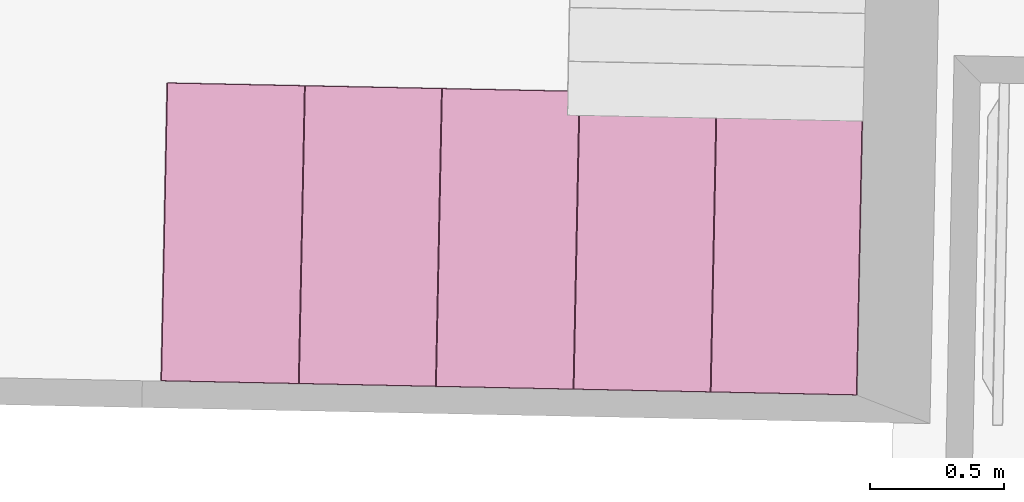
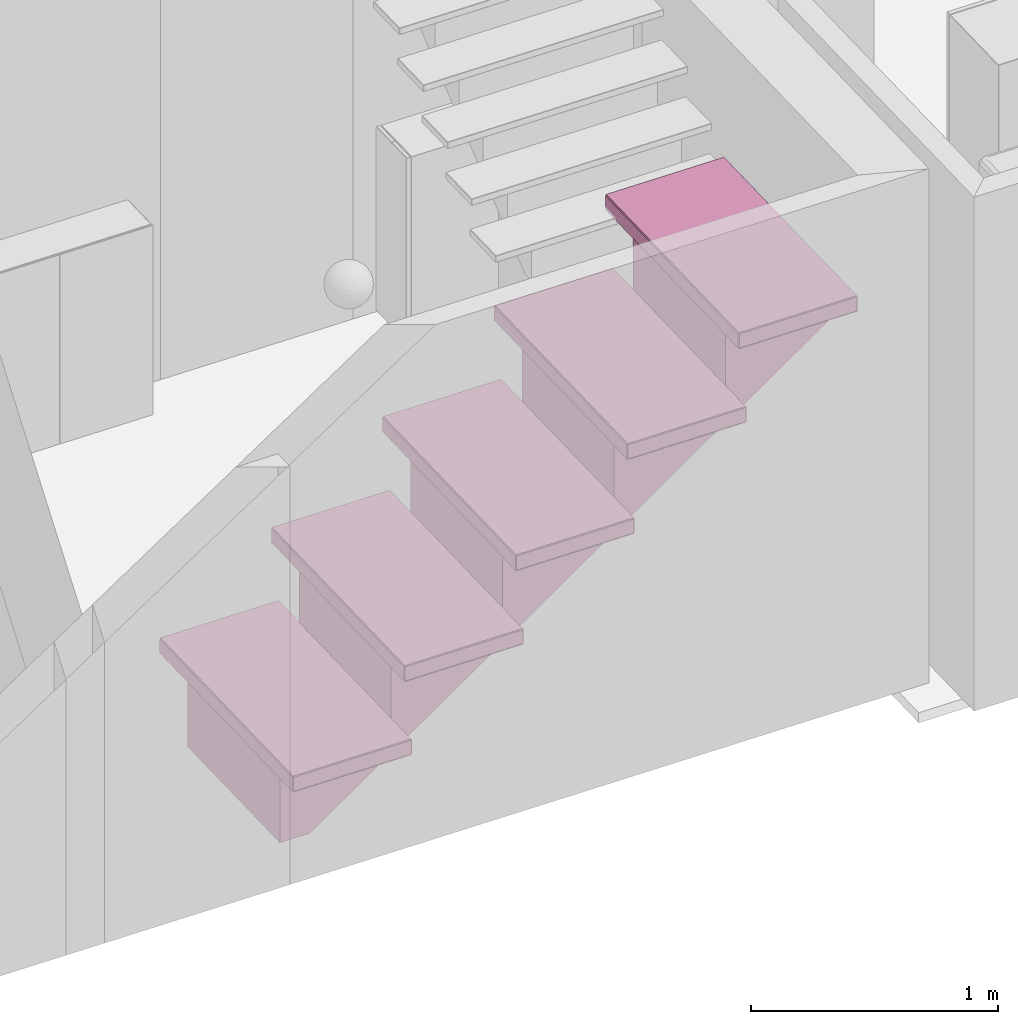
# One storey, part 3 of 8: 1 furnishing.
"""IFC2X3 building model written with IfcOpenShell, lengths in metres."""

from ifc_helpers import new_model, si_unit, frame, origin_with_axes, place, context, project, spatial, faceted_brep, type_object, element, save


model = new_model("IFC2X3")

# Units and contexts
model_context = context("Model", 3, precision=1e-05, world=origin_with_axes())
ifc_project = project(units=[si_unit("AREAUNIT", "SQUARE_METRE"), si_unit("LENGTHUNIT", "METRE")], contexts=[model_context])

# Site, building, storey, space
site_placement = place(None, origin_with_axes())
site = spatial("IfcSite", under=ifc_project, at=site_placement, Name="Site", CompositionType="ELEMENT")
building_placement = place(site_placement, origin_with_axes())
building = spatial("IfcBuilding", under=site, at=building_placement, Name="Building", CompositionType="ELEMENT")
storey_placement = place(building_placement, frame((0.0, 0.0, 2.8867046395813), z_axis=(0.0, 0.0, 1.0), x_axis=(1.0, 0.0, 0.0)))
storey = spatial("IfcBuildingStorey", under=building, at=storey_placement, Name="Story 1", CompositionType="ELEMENT", Elevation=2.8867045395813)
space_placement = place(storey_placement, frame((-5.69888454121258, -2.58056097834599, 0.0), z_axis=(0.0, 0.0, 1.0), x_axis=(1.0, 0.0, 0.0)))
space = spatial("IfcSpace", under=storey, at=space_placement, Name="009", CompositionType="ELEMENT", InteriorOrExteriorSpace="INTERNAL")

# Furnishing
furniture_type = type_object("IfcFurnitureType", Name="9e3f99af-1cf1-44c9-84f8-2562cf95ac9b")
furnishing_placement = place(space_placement, frame((2.24800496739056, -1.30748051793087, 0.970515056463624), z_axis=(0.0, 0.0, 0.999999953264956), x_axis=(-0.999792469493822, 0.0203700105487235, 0.0)))
element("IfcFurnishingElement", 1, at=furnishing_placement, inside=space, type_object=furniture_type, Name="STAIRS", ObjectType="STAIRS", context=model_context, shape_type="Brep", body=[
    faceted_brep([(1.3034, 0.5566, -0.5276), (1.3034, -0.5566, -0.5276), (1.3034, 0.5566, -0.5963), (1.3034, -0.5566, -0.5963), (1.3034, 0.5566, -0.5963), (1.3034, -0.5566, -0.5276), (1.2997, -0.5586, -0.5276), (0.7564, -0.5586, -0.5276), (1.2997, -0.5586, -0.5963), (0.7564, -0.5586, -0.5963), (1.2997, -0.5586, -0.5963), (0.7564, -0.5586, -0.5276), (0.7527, -0.5566, -0.5276), (0.7527, 0.5566, -0.5276), (0.7527, -0.5566, -0.5963), (0.7527, 0.5566, -0.5963), (0.7527, -0.5566, -0.5963), (0.7527, 0.5566, -0.5276), (0.7564, 0.5586, -0.5276), (1.2997, 0.5586, -0.5276), (0.7564, 0.5586, -0.5963), (1.2997, 0.5586, -0.5963), (0.7564, 0.5586, -0.5963), (1.2997, 0.5586, -0.5276), (1.2997, -0.5566, -0.6016), (0.7564, -0.5566, -0.6016), (1.2997, 0.5566, -0.6016), (0.7564, 0.5566, -0.6016), (1.2997, 0.5566, -0.6016), (0.7564, -0.5566, -0.6016), (1.2997, -0.5566, -0.5223), (1.2997, 0.5566, -0.5223), (0.7564, -0.5566, -0.5223), (0.7564, 0.5566, -0.5223), (0.7564, -0.5566, -0.5223), (1.2997, 0.5566, -0.5223), (1.2997, 0.5586, -0.5963), (1.3034, 0.5566, -0.5963), (1.2997, 0.5566, -0.6016), (1.2997, -0.5586, -0.5963), (1.2997, -0.5566, -0.6016), (1.3034, -0.5566, -0.5963), (0.7527, -0.5566, -0.5963), (0.7564, -0.5566, -0.6016), (0.7564, -0.5586, -0.5963), (0.7527, 0.5566, -0.5963), (0.7564, 0.5586, -0.5963), (0.7564, 0.5566, -0.6016), (1.2997, 0.5566, -0.5223), (1.3034, 0.5566, -0.5276), (1.2997, 0.5586, -0.5276), (1.2997, -0.5566, -0.5223), (1.2997, -0.5586, -0.5276), (1.3034, -0.5566, -0.5276), (0.7564, -0.5566, -0.5223), (0.7527, -0.5566, -0.5276), (0.7564, -0.5586, -0.5276), (0.7564, 0.5566, -0.5223), (0.7564, 0.5586, -0.5276), (0.7527, 0.5566, -0.5276), (1.2997, 0.5566, -0.6016), (1.3034, 0.5566, -0.5963), (1.2997, -0.5566, -0.6016), (1.3034, -0.5566, -0.5963), (1.2997, -0.5566, -0.6016), (1.3034, 0.5566, -0.5963), (1.2997, -0.5586, -0.5963), (1.3034, -0.5566, -0.5963), (1.2997, -0.5586, -0.5276), (1.3034, -0.5566, -0.5276), (1.2997, -0.5586, -0.5276), (1.3034, -0.5566, -0.5963), (1.2997, -0.5566, -0.5223), (1.3034, -0.5566, -0.5276), (1.2997, 0.5566, -0.5223), (1.3034, 0.5566, -0.5276), (1.2997, 0.5566, -0.5223), (1.3034, -0.5566, -0.5276), (1.2997, 0.5586, -0.5276), (1.3034, 0.5566, -0.5276), (1.2997, 0.5586, -0.5963), (1.3034, 0.5566, -0.5963), (1.2997, 0.5586, -0.5963), (1.3034, 0.5566, -0.5276), (1.2997, -0.5566, -0.6016), (1.2997, -0.5586, -0.5963), (0.7564, -0.5566, -0.6016), (0.7564, -0.5586, -0.5963), (0.7564, -0.5566, -0.6016), (1.2997, -0.5586, -0.5963), (0.7527, -0.5566, -0.5963), (0.7564, -0.5586, -0.5963), (0.7527, -0.5566, -0.5276), (0.7564, -0.5586, -0.5276), (0.7527, -0.5566, -0.5276), (0.7564, -0.5586, -0.5963), (0.7564, -0.5566, -0.5223), (0.7564, -0.5586, -0.5276), (1.2997, -0.5566, -0.5223), (1.2997, -0.5586, -0.5276), (1.2997, -0.5566, -0.5223), (0.7564, -0.5586, -0.5276), (0.7564, -0.5566, -0.6016), (0.7527, -0.5566, -0.5963), (0.7564, 0.5566, -0.6016), (0.7527, 0.5566, -0.5963), (0.7564, 0.5566, -0.6016), (0.7527, -0.5566, -0.5963), (0.7564, 0.5586, -0.5963), (0.7527, 0.5566, -0.5963), (0.7564, 0.5586, -0.5276), (0.7527, 0.5566, -0.5276), (0.7564, 0.5586, -0.5276), (0.7527, 0.5566, -0.5963), (0.7564, 0.5566, -0.5223), (0.7527, 0.5566, -0.5276), (0.7564, -0.5566, -0.5223), (0.7527, -0.5566, -0.5276), (0.7564, -0.5566, -0.5223), (0.7527, 0.5566, -0.5276), (0.7564, 0.5566, -0.6016), (0.7564, 0.5586, -0.5963), (1.2997, 0.5566, -0.6016), (1.2997, 0.5586, -0.5963), (1.2997, 0.5566, -0.6016), (0.7564, 0.5586, -0.5963), (1.2997, 0.5566, -0.5223), (1.2997, 0.5586, -0.5276), (0.7564, 0.5566, -0.5223), (0.7564, 0.5586, -0.5276), (0.7564, 0.5566, -0.5223), (1.2997, 0.5586, -0.5276), (0.788, 0.5566, -0.1566), (0.788, -0.5566, -0.1566), (0.788, 0.5566, -0.2253), (0.788, -0.5566, -0.2253), (0.788, 0.5566, -0.2253), (0.788, -0.5566, -0.1566), (0.7844, -0.5586, -0.1566), (0.241, -0.5586, -0.1566), (0.7844, -0.5586, -0.2253), (0.241, -0.5586, -0.2253), (0.7844, -0.5586, -0.2253), (0.241, -0.5586, -0.1566), (0.2374, -0.5566, -0.1566), (0.2374, 0.5566, -0.1566), (0.2374, -0.5566, -0.2253), (0.2374, 0.5566, -0.2253), (0.2374, -0.5566, -0.2253), (0.2374, 0.5566, -0.1566), (0.241, 0.5586, -0.1566), (0.7844, 0.5586, -0.1566), (0.241, 0.5586, -0.2253), (0.7844, 0.5586, -0.2253), (0.241, 0.5586, -0.2253), (0.7844, 0.5586, -0.1566), (0.7844, -0.5566, -0.2305), (0.241, -0.5566, -0.2305), (0.7844, 0.5566, -0.2305), (0.241, 0.5566, -0.2305), (0.7844, 0.5566, -0.2305), (0.241, -0.5566, -0.2305), (0.7844, -0.5566, -0.1513), (0.7844, 0.5566, -0.1513), (0.241, -0.5566, -0.1513), (0.241, 0.5566, -0.1513), (0.241, -0.5566, -0.1513), (0.7844, 0.5566, -0.1513), (0.7844, 0.5586, -0.2253), (0.788, 0.5566, -0.2253), (0.7844, 0.5566, -0.2305), (0.7844, -0.5586, -0.2253), (0.7844, -0.5566, -0.2305), (0.788, -0.5566, -0.2253), (0.2374, -0.5566, -0.2253), (0.241, -0.5566, -0.2305), (0.241, -0.5586, -0.2253), (0.2374, 0.5566, -0.2253), (0.241, 0.5586, -0.2253), (0.241, 0.5566, -0.2305), (0.7844, 0.5566, -0.1513), (0.788, 0.5566, -0.1566), (0.7844, 0.5586, -0.1566), (0.7844, -0.5566, -0.1513), (0.7844, -0.5586, -0.1566), (0.788, -0.5566, -0.1566), (0.241, -0.5566, -0.1513), (0.2374, -0.5566, -0.1566), (0.241, -0.5586, -0.1566), (0.241, 0.5566, -0.1513), (0.241, 0.5586, -0.1566), (0.2374, 0.5566, -0.1566), (0.7844, 0.5566, -0.2305), (0.788, 0.5566, -0.2253), (0.7844, -0.5566, -0.2305), (0.788, -0.5566, -0.2253), (0.7844, -0.5566, -0.2305), (0.788, 0.5566, -0.2253), (0.7844, -0.5586, -0.2253), (0.788, -0.5566, -0.2253), (0.7844, -0.5586, -0.1566), (0.788, -0.5566, -0.1566), (0.7844, -0.5586, -0.1566), (0.788, -0.5566, -0.2253), (0.7844, -0.5566, -0.1513), (0.788, -0.5566, -0.1566), (0.7844, 0.5566, -0.1513), (0.788, 0.5566, -0.1566), (0.7844, 0.5566, -0.1513), (0.788, -0.5566, -0.1566), (0.7844, 0.5586, -0.1566), (0.788, 0.5566, -0.1566), (0.7844, 0.5586, -0.2253), (0.788, 0.5566, -0.2253), (0.7844, 0.5586, -0.2253), (0.788, 0.5566, -0.1566), (0.7844, -0.5566, -0.2305), (0.7844, -0.5586, -0.2253), (0.241, -0.5566, -0.2305), (0.241, -0.5586, -0.2253), (0.241, -0.5566, -0.2305), (0.7844, -0.5586, -0.2253), (0.2374, -0.5566, -0.2253), (0.241, -0.5586, -0.2253), (0.2374, -0.5566, -0.1566), (0.241, -0.5586, -0.1566), (0.2374, -0.5566, -0.1566), (0.241, -0.5586, -0.2253), (0.241, -0.5566, -0.1513), (0.241, -0.5586, -0.1566), (0.7844, -0.5566, -0.1513), (0.7844, -0.5586, -0.1566), (0.7844, -0.5566, -0.1513), (0.241, -0.5586, -0.1566), (0.241, -0.5566, -0.2305), (0.2374, -0.5566, -0.2253), (0.241, 0.5566, -0.2305), (0.2374, 0.5566, -0.2253), (0.241, 0.5566, -0.2305), (0.2374, -0.5566, -0.2253), (0.241, 0.5586, -0.2253), (0.2374, 0.5566, -0.2253), (0.241, 0.5586, -0.1566), (0.2374, 0.5566, -0.1566), (0.241, 0.5586, -0.1566), (0.2374, 0.5566, -0.2253), (0.241, 0.5566, -0.1513), (0.2374, 0.5566, -0.1566), (0.241, -0.5566, -0.1513), (0.2374, -0.5566, -0.1566), (0.241, -0.5566, -0.1513), (0.2374, 0.5566, -0.1566), (0.241, 0.5566, -0.2305), (0.241, 0.5586, -0.2253), (0.7844, 0.5566, -0.2305), (0.7844, 0.5586, -0.2253), (0.7844, 0.5566, -0.2305), (0.241, 0.5586, -0.2253), (0.7844, 0.5566, -0.1513), (0.7844, 0.5586, -0.1566), (0.241, 0.5566, -0.1513), (0.241, 0.5586, -0.1566), (0.241, 0.5566, -0.1513), (0.7844, 0.5586, -0.1566), (0.2752, 0.5566, 0.2169), (0.2752, -0.5566, 0.2169), (0.2752, 0.5566, 0.1482), (0.2752, -0.5566, 0.1482), (0.2752, 0.5566, 0.1482), (0.2752, -0.5566, 0.2169), (0.2716, -0.5586, 0.2169), (-0.2718, -0.5586, 0.2169), (0.2716, -0.5586, 0.1482), (-0.2718, -0.5586, 0.1482), (0.2716, -0.5586, 0.1482), (-0.2718, -0.5586, 0.2169), (-0.2754, -0.5566, 0.2169), (-0.2754, 0.5566, 0.2169), (-0.2754, -0.5566, 0.1482), (-0.2754, 0.5566, 0.1482), (-0.2754, -0.5566, 0.1482), (-0.2754, 0.5566, 0.2169), (-0.2718, 0.5586, 0.2169), (0.2716, 0.5586, 0.2169), (-0.2718, 0.5586, 0.1482), (0.2716, 0.5586, 0.1482), (-0.2718, 0.5586, 0.1482), (0.2716, 0.5586, 0.2169), (0.2716, -0.5566, 0.143), (-0.2718, -0.5566, 0.143), (0.2716, 0.5566, 0.143), (-0.2718, 0.5566, 0.143), (0.2716, 0.5566, 0.143), (-0.2718, -0.5566, 0.143), (0.2716, -0.5566, 0.2222), (0.2716, 0.5566, 0.2222), (-0.2718, -0.5566, 0.2222), (-0.2718, 0.5566, 0.2222), (-0.2718, -0.5566, 0.2222), (0.2716, 0.5566, 0.2222), (0.2716, 0.5586, 0.1482), (0.2752, 0.5566, 0.1482), (0.2716, 0.5566, 0.143), (0.2716, -0.5586, 0.1482), (0.2716, -0.5566, 0.143), (0.2752, -0.5566, 0.1482), (-0.2754, -0.5566, 0.1482), (-0.2718, -0.5566, 0.143), (-0.2718, -0.5586, 0.1482), (-0.2754, 0.5566, 0.1482), (-0.2718, 0.5586, 0.1482), (-0.2718, 0.5566, 0.143), (0.2716, 0.5566, 0.2222), (0.2752, 0.5566, 0.2169), (0.2716, 0.5586, 0.2169), (0.2716, -0.5566, 0.2222), (0.2716, -0.5586, 0.2169), (0.2752, -0.5566, 0.2169), (-0.2718, -0.5566, 0.2222), (-0.2754, -0.5566, 0.2169), (-0.2718, -0.5586, 0.2169), (-0.2718, 0.5566, 0.2222), (-0.2718, 0.5586, 0.2169), (-0.2754, 0.5566, 0.2169), (0.2716, 0.5566, 0.143), (0.2752, 0.5566, 0.1482), (0.2716, -0.5566, 0.143), (0.2752, -0.5566, 0.1482), (0.2716, -0.5566, 0.143), (0.2752, 0.5566, 0.1482), (0.2716, -0.5586, 0.1482), (0.2752, -0.5566, 0.1482), (0.2716, -0.5586, 0.2169), (0.2752, -0.5566, 0.2169), (0.2716, -0.5586, 0.2169), (0.2752, -0.5566, 0.1482), (0.2716, -0.5566, 0.2222), (0.2752, -0.5566, 0.2169), (0.2716, 0.5566, 0.2222), (0.2752, 0.5566, 0.2169), (0.2716, 0.5566, 0.2222), (0.2752, -0.5566, 0.2169), (0.2716, 0.5586, 0.2169), (0.2752, 0.5566, 0.2169), (0.2716, 0.5586, 0.1482), (0.2752, 0.5566, 0.1482), (0.2716, 0.5586, 0.1482), (0.2752, 0.5566, 0.2169), (0.2716, -0.5566, 0.143), (0.2716, -0.5586, 0.1482), (-0.2718, -0.5566, 0.143), (-0.2718, -0.5586, 0.1482), (-0.2718, -0.5566, 0.143), (0.2716, -0.5586, 0.1482), (-0.2754, -0.5566, 0.1482), (-0.2718, -0.5586, 0.1482), (-0.2754, -0.5566, 0.2169), (-0.2718, -0.5586, 0.2169), (-0.2754, -0.5566, 0.2169), (-0.2718, -0.5586, 0.1482), (-0.2718, -0.5566, 0.2222), (-0.2718, -0.5586, 0.2169), (0.2716, -0.5566, 0.2222), (0.2716, -0.5586, 0.2169), (0.2716, -0.5566, 0.2222), (-0.2718, -0.5586, 0.2169), (-0.2718, -0.5566, 0.143), (-0.2754, -0.5566, 0.1482), (-0.2718, 0.5566, 0.143), (-0.2754, 0.5566, 0.1482), (-0.2718, 0.5566, 0.143), (-0.2754, -0.5566, 0.1482), (-0.2718, 0.5586, 0.1482), (-0.2754, 0.5566, 0.1482), (-0.2718, 0.5586, 0.2169), (-0.2754, 0.5566, 0.2169), (-0.2718, 0.5586, 0.2169), (-0.2754, 0.5566, 0.1482), (-0.2718, 0.5566, 0.2222), (-0.2754, 0.5566, 0.2169), (-0.2718, -0.5566, 0.2222), (-0.2754, -0.5566, 0.2169), (-0.2718, -0.5566, 0.2222), (-0.2754, 0.5566, 0.2169), (-0.2718, 0.5566, 0.143), (-0.2718, 0.5586, 0.1482), (0.2716, 0.5566, 0.143), (0.2716, 0.5586, 0.1482), (0.2716, 0.5566, 0.143), (-0.2718, 0.5586, 0.1482), (0.2716, 0.5566, 0.2222), (0.2716, 0.5586, 0.2169), (-0.2718, 0.5566, 0.2222), (-0.2718, 0.5586, 0.2169), (-0.2718, 0.5566, 0.2222), (0.2716, 0.5586, 0.2169), (-0.2397, 0.5566, 0.5917), (-0.2397, -0.5566, 0.5917), (-0.2397, 0.5566, 0.523), (-0.2397, -0.5566, 0.523), (-0.2397, 0.5566, 0.523), (-0.2397, -0.5566, 0.5917), (-0.2434, -0.5586, 0.5917), (-0.7867, -0.5586, 0.5917), (-0.2434, -0.5586, 0.523), (-0.7867, -0.5586, 0.523), (-0.2434, -0.5586, 0.523), (-0.7867, -0.5586, 0.5917), (-0.7904, -0.5566, 0.5917), (-0.7904, 0.5566, 0.5917), (-0.7904, -0.5566, 0.523), (-0.7904, 0.5566, 0.523), (-0.7904, -0.5566, 0.523), (-0.7904, 0.5566, 0.5917), (-0.7867, 0.5586, 0.5917), (-0.2434, 0.5586, 0.5917), (-0.7867, 0.5586, 0.523), (-0.2434, 0.5586, 0.523), (-0.7867, 0.5586, 0.523), (-0.2434, 0.5586, 0.5917), (-0.2434, -0.5566, 0.5177), (-0.7867, -0.5566, 0.5177), (-0.2434, 0.5566, 0.5177), (-0.7867, 0.5566, 0.5177), (-0.2434, 0.5566, 0.5177), (-0.7867, -0.5566, 0.5177), (-0.2434, -0.5566, 0.5969), (-0.2434, 0.5566, 0.5969), (-0.7867, -0.5566, 0.5969), (-0.7867, 0.5566, 0.5969), (-0.7867, -0.5566, 0.5969), (-0.2434, 0.5566, 0.5969), (-0.2434, 0.5586, 0.523), (-0.2397, 0.5566, 0.523), (-0.2434, 0.5566, 0.5177), (-0.2434, -0.5586, 0.523), (-0.2434, -0.5566, 0.5177), (-0.2397, -0.5566, 0.523), (-0.7904, -0.5566, 0.523), (-0.7867, -0.5566, 0.5177), (-0.7867, -0.5586, 0.523), (-0.7904, 0.5566, 0.523), (-0.7867, 0.5586, 0.523), (-0.7867, 0.5566, 0.5177), (-0.2434, 0.5566, 0.5969), (-0.2397, 0.5566, 0.5917), (-0.2434, 0.5586, 0.5917), (-0.2434, -0.5566, 0.5969), (-0.2434, -0.5586, 0.5917), (-0.2397, -0.5566, 0.5917), (-0.7867, -0.5566, 0.5969), (-0.7904, -0.5566, 0.5917), (-0.7867, -0.5586, 0.5917), (-0.7867, 0.5566, 0.5969), (-0.7867, 0.5586, 0.5917), (-0.7904, 0.5566, 0.5917), (-0.2434, 0.5566, 0.5177), (-0.2397, 0.5566, 0.523), (-0.2434, -0.5566, 0.5177), (-0.2397, -0.5566, 0.523), (-0.2434, -0.5566, 0.5177), (-0.2397, 0.5566, 0.523), (-0.2434, -0.5586, 0.523), (-0.2397, -0.5566, 0.523), (-0.2434, -0.5586, 0.5917), (-0.2397, -0.5566, 0.5917), (-0.2434, -0.5586, 0.5917), (-0.2397, -0.5566, 0.523), (-0.2434, -0.5566, 0.5969), (-0.2397, -0.5566, 0.5917), (-0.2434, 0.5566, 0.5969), (-0.2397, 0.5566, 0.5917), (-0.2434, 0.5566, 0.5969), (-0.2397, -0.5566, 0.5917), (-0.2434, 0.5586, 0.5917), (-0.2397, 0.5566, 0.5917), (-0.2434, 0.5586, 0.523), (-0.2397, 0.5566, 0.523), (-0.2434, 0.5586, 0.523), (-0.2397, 0.5566, 0.5917), (-0.2434, -0.5566, 0.5177), (-0.2434, -0.5586, 0.523), (-0.7867, -0.5566, 0.5177), (-0.7867, -0.5586, 0.523), (-0.7867, -0.5566, 0.5177), (-0.2434, -0.5586, 0.523), (-0.7904, -0.5566, 0.523), (-0.7867, -0.5586, 0.523), (-0.7904, -0.5566, 0.5917), (-0.7867, -0.5586, 0.5917), (-0.7904, -0.5566, 0.5917), (-0.7867, -0.5586, 0.523), (-0.7867, -0.5566, 0.5969), (-0.7867, -0.5586, 0.5917), (-0.2434, -0.5566, 0.5969), (-0.2434, -0.5586, 0.5917), (-0.2434, -0.5566, 0.5969), (-0.7867, -0.5586, 0.5917), (-0.7867, -0.5566, 0.5177), (-0.7904, -0.5566, 0.523), (-0.7867, 0.5566, 0.5177), (-0.7904, 0.5566, 0.523), (-0.7867, 0.5566, 0.5177), (-0.7904, -0.5566, 0.523), (-0.7867, 0.5586, 0.523), (-0.7904, 0.5566, 0.523), (-0.7867, 0.5586, 0.5917), (-0.7904, 0.5566, 0.5917), (-0.7867, 0.5586, 0.5917), (-0.7904, 0.5566, 0.523), (-0.7867, 0.5566, 0.5969), (-0.7904, 0.5566, 0.5917), (-0.7867, -0.5566, 0.5969), (-0.7904, -0.5566, 0.5917), (-0.7867, -0.5566, 0.5969), (-0.7904, 0.5566, 0.5917), (-0.7867, 0.5566, 0.5177), (-0.7867, 0.5586, 0.523), (-0.2434, 0.5566, 0.5177), (-0.2434, 0.5586, 0.523), (-0.2434, 0.5566, 0.5177), (-0.7867, 0.5586, 0.523), (-0.2434, 0.5566, 0.5969), (-0.2434, 0.5586, 0.5917), (-0.7867, 0.5566, 0.5969), (-0.7867, 0.5586, 0.5917), (-0.7867, 0.5566, 0.5969), (-0.2434, 0.5586, 0.5917), (-0.7527, 0.5566, 0.9652), (-0.7527, -0.5566, 0.9652), (-0.7527, 0.5566, 0.8965), (-0.7527, -0.5566, 0.8965), (-0.7527, 0.5566, 0.8965), (-0.7527, -0.5566, 0.9652), (-0.7564, -0.5586, 0.9652), (-1.2997, -0.5586, 0.9652), (-0.7564, -0.5586, 0.8965), (-1.2997, -0.5586, 0.8965), (-0.7564, -0.5586, 0.8965), (-1.2997, -0.5586, 0.9652), (-1.3034, -0.5566, 0.9652), (-1.3034, 0.5566, 0.9652), (-1.3034, -0.5566, 0.8965), (-1.3034, 0.5566, 0.8965), (-1.3034, -0.5566, 0.8965), (-1.3034, 0.5566, 0.9652), (-1.2997, 0.5586, 0.9652), (-0.7564, 0.5586, 0.9652), (-1.2997, 0.5586, 0.8965), (-0.7564, 0.5586, 0.8965), (-1.2997, 0.5586, 0.8965), (-0.7564, 0.5586, 0.9652), (-0.7564, -0.5566, 0.8912), (-1.2997, -0.5566, 0.8912), (-0.7564, 0.5566, 0.8912), (-1.2997, 0.5566, 0.8912), (-0.7564, 0.5566, 0.8912), (-1.2997, -0.5566, 0.8912), (-0.7564, -0.5566, 0.9705), (-0.7564, 0.5566, 0.9705), (-1.2997, -0.5566, 0.9705), (-1.2997, 0.5566, 0.9705), (-1.2997, -0.5566, 0.9705), (-0.7564, 0.5566, 0.9705), (-0.7564, 0.5586, 0.8965), (-0.7527, 0.5566, 0.8965), (-0.7564, 0.5566, 0.8912), (-0.7564, -0.5586, 0.8965), (-0.7564, -0.5566, 0.8912), (-0.7527, -0.5566, 0.8965), (-1.3034, -0.5566, 0.8965), (-1.2997, -0.5566, 0.8912), (-1.2997, -0.5586, 0.8965), (-1.3034, 0.5566, 0.8965), (-1.2997, 0.5586, 0.8965), (-1.2997, 0.5566, 0.8912), (-0.7564, 0.5566, 0.9705), (-0.7527, 0.5566, 0.9652), (-0.7564, 0.5586, 0.9652), (-0.7564, -0.5566, 0.9705), (-0.7564, -0.5586, 0.9652), (-0.7527, -0.5566, 0.9652), (-1.2997, -0.5566, 0.9705), (-1.3034, -0.5566, 0.9652), (-1.2997, -0.5586, 0.9652), (-1.2997, 0.5566, 0.9705), (-1.2997, 0.5586, 0.9652), (-1.3034, 0.5566, 0.9652), (-0.7564, 0.5566, 0.8912), (-0.7527, 0.5566, 0.8965), (-0.7564, -0.5566, 0.8912), (-0.7527, -0.5566, 0.8965), (-0.7564, -0.5566, 0.8912), (-0.7527, 0.5566, 0.8965), (-0.7564, -0.5586, 0.8965), (-0.7527, -0.5566, 0.8965), (-0.7564, -0.5586, 0.9652), (-0.7527, -0.5566, 0.9652), (-0.7564, -0.5586, 0.9652), (-0.7527, -0.5566, 0.8965), (-0.7564, -0.5566, 0.9705), (-0.7527, -0.5566, 0.9652), (-0.7564, 0.5566, 0.9705), (-0.7527, 0.5566, 0.9652), (-0.7564, 0.5566, 0.9705), (-0.7527, -0.5566, 0.9652), (-0.7564, 0.5586, 0.9652), (-0.7527, 0.5566, 0.9652), (-0.7564, 0.5586, 0.8965), (-0.7527, 0.5566, 0.8965), (-0.7564, 0.5586, 0.8965), (-0.7527, 0.5566, 0.9652), (-0.7564, -0.5566, 0.8912), (-0.7564, -0.5586, 0.8965), (-1.2997, -0.5566, 0.8912), (-1.2997, -0.5586, 0.8965), (-1.2997, -0.5566, 0.8912), (-0.7564, -0.5586, 0.8965), (-1.3034, -0.5566, 0.8965), (-1.2997, -0.5586, 0.8965), (-1.3034, -0.5566, 0.9652), (-1.2997, -0.5586, 0.9652), (-1.3034, -0.5566, 0.9652), (-1.2997, -0.5586, 0.8965), (-1.2997, -0.5566, 0.9705), (-1.2997, -0.5586, 0.9652), (-0.7564, -0.5566, 0.9705), (-0.7564, -0.5586, 0.9652), (-0.7564, -0.5566, 0.9705), (-1.2997, -0.5586, 0.9652), (-1.2997, -0.5566, 0.8912), (-1.3034, -0.5566, 0.8965), (-1.2997, 0.5566, 0.8912), (-1.3034, 0.5566, 0.8965), (-1.2997, 0.5566, 0.8912), (-1.3034, -0.5566, 0.8965), (-1.2997, 0.5586, 0.8965), (-1.3034, 0.5566, 0.8965), (-1.2997, 0.5586, 0.9652), (-1.3034, 0.5566, 0.9652), (-1.2997, 0.5586, 0.9652), (-1.3034, 0.5566, 0.8965), (-1.2997, 0.5566, 0.9705), (-1.3034, 0.5566, 0.9652), (-1.2997, -0.5566, 0.9705), (-1.3034, -0.5566, 0.9652), (-1.2997, -0.5566, 0.9705), (-1.3034, 0.5566, 0.9652), (-1.2997, 0.5566, 0.8912), (-1.2997, 0.5586, 0.8965), (-0.7564, 0.5566, 0.8912), (-0.7564, 0.5586, 0.8965), (-0.7564, 0.5566, 0.8912), (-1.2997, 0.5586, 0.8965), (-0.7564, 0.5566, 0.9705), (-0.7564, 0.5586, 0.9652), (-1.2997, 0.5566, 0.9705), (-1.2997, 0.5586, 0.9652), (-1.2997, 0.5566, 0.9705), (-0.7564, 0.5586, 0.9652), (1.2654, 0.333, -0.6012), (1.2654, 0.333, -0.9705), (1.2654, 0.3814, -0.6012), (1.2654, 0.3814, -0.9705), (1.2654, 0.3814, -0.6012), (1.2654, 0.333, -0.9705), (0.7514, 0.333, -0.6012), (1.2654, 0.333, -0.6012), (0.7514, 0.3814, -0.6012), (1.2654, 0.3814, -0.6012), (0.7514, 0.3814, -0.6012), (1.2654, 0.333, -0.6012), (0.7514, 0.333, -0.2286), (0.7514, 0.333, -0.6012), (0.7514, 0.3814, -0.2286), (0.7514, 0.3814, -0.6012), (0.7514, 0.3814, -0.2286), (0.7514, 0.333, -0.6012), (0.2374, 0.333, -0.2286), (0.7514, 0.333, -0.2286), (0.2374, 0.3814, -0.2286), (0.7514, 0.3814, -0.2286), (0.2374, 0.3814, -0.2286), (0.7514, 0.333, -0.2286), (0.2374, 0.333, 0.1439), (0.2374, 0.333, -0.2286), (0.2374, 0.3814, 0.1439), (0.2374, 0.3814, -0.2286), (0.2374, 0.3814, 0.1439), (0.2374, 0.333, -0.2286), (-0.2765, 0.333, 0.1439), (0.2374, 0.333, 0.1439), (-0.2765, 0.3814, 0.1439), (0.2374, 0.3814, 0.1439), (-0.2765, 0.3814, 0.1439), (0.2374, 0.333, 0.1439), (-0.2765, 0.333, 0.5165), (-0.2765, 0.333, 0.1439), (-0.2765, 0.3814, 0.5165), (-0.2765, 0.3814, 0.1439), (-0.2765, 0.3814, 0.5165), (-0.2765, 0.333, 0.1439), (-0.7905, 0.333, 0.5165), (-0.2765, 0.333, 0.5165), (-0.7905, 0.3814, 0.5165), (-0.2765, 0.3814, 0.5165), (-0.7905, 0.3814, 0.5165), (-0.2765, 0.333, 0.5165), (-0.7905, 0.333, 0.8891), (-0.7905, 0.333, 0.5165), (-0.7905, 0.3814, 0.8891), (-0.7905, 0.3814, 0.5165), (-0.7905, 0.3814, 0.8891), (-0.7905, 0.333, 0.5165), (-1.2861, 0.333, 0.8891), (-0.7905, 0.333, 0.8891), (-1.2861, 0.3814, 0.8891), (-0.7905, 0.3814, 0.8891), (-1.2861, 0.3814, 0.8891), (-0.7905, 0.333, 0.8891), (1.2654, -0.3921, -0.6012), (1.2654, -0.3921, -0.9705), (1.2654, -0.3437, -0.6012), (1.2654, -0.3437, -0.9705), (1.2654, -0.3437, -0.6012), (1.2654, -0.3921, -0.9705), (0.7514, -0.3921, -0.6012), (1.2654, -0.3921, -0.6012), (0.7514, -0.3437, -0.6012), (1.2654, -0.3437, -0.6012), (0.7514, -0.3437, -0.6012), (1.2654, -0.3921, -0.6012), (0.7514, -0.3921, -0.2286), (0.7514, -0.3921, -0.6012), (0.7514, -0.3437, -0.2286), (0.7514, -0.3437, -0.6012), (0.7514, -0.3437, -0.2286), (0.7514, -0.3921, -0.6012), (0.2374, -0.3921, -0.2286), (0.7514, -0.3921, -0.2286), (0.2374, -0.3437, -0.2286), (0.7514, -0.3437, -0.2286), (0.2374, -0.3437, -0.2286), (0.7514, -0.3921, -0.2286), (0.2374, -0.3921, 0.1439), (0.2374, -0.3921, -0.2286), (0.2374, -0.3437, 0.1439), (0.2374, -0.3437, -0.2286), (0.2374, -0.3437, 0.1439), (0.2374, -0.3921, -0.2286), (-0.2765, -0.3921, 0.1439), (0.2374, -0.3921, 0.1439), (-0.2765, -0.3437, 0.1439), (0.2374, -0.3437, 0.1439), (-0.2765, -0.3437, 0.1439), (0.2374, -0.3921, 0.1439), (-0.2765, -0.3921, 0.5165), (-0.2765, -0.3921, 0.1439), (-0.2765, -0.3437, 0.5165), (-0.2765, -0.3437, 0.1439), (-0.2765, -0.3437, 0.5165), (-0.2765, -0.3921, 0.1439), (-0.7905, -0.3921, 0.5165), (-0.2765, -0.3921, 0.5165), (-0.7905, -0.3437, 0.5165), (-0.2765, -0.3437, 0.5165), (-0.7905, -0.3437, 0.5165), (-0.2765, -0.3921, 0.5165), (-0.7905, -0.3921, 0.8891), (-0.7905, -0.3921, 0.5165), (-0.7905, -0.3437, 0.8891), (-0.7905, -0.3437, 0.5165), (-0.7905, -0.3437, 0.8891), (-0.7905, -0.3921, 0.5165), (-1.2861, -0.3921, 0.8891), (-0.7905, -0.3921, 0.8891), (-1.2861, -0.3437, 0.8891), (-0.7905, -0.3437, 0.8891), (-1.2861, -0.3437, 0.8891), (-0.7905, -0.3921, 0.8891), (1.1273, 0.3814, -0.9705), (1.1273, 0.333, -0.9705), (-1.2861, 0.3814, 0.7644), (-1.2861, 0.333, 0.7644), (-1.2861, 0.3814, 0.7644), (1.1273, 0.333, -0.9705), (1.1273, -0.3437, -0.9705), (1.1273, -0.3921, -0.9705), (-1.2861, -0.3437, 0.7644), (-1.2861, -0.3921, 0.7644), (-1.2861, -0.3437, 0.7644), (1.1273, -0.3921, -0.9705), (1.1273, 0.3814, -0.9705), (1.2654, 0.3814, -0.9705), (1.1273, 0.333, -0.9705), (1.2654, 0.333, -0.9705), (1.1273, 0.333, -0.9705), (1.2654, 0.3814, -0.9705), (-1.2861, 0.3814, 0.7644), (-1.2861, 0.333, 0.7644), (-1.2861, 0.3814, 0.8891), (-1.2861, 0.333, 0.8891), (-1.2861, 0.3814, 0.8891), (-1.2861, 0.333, 0.7644), (1.1273, -0.3921, -0.9705), (1.1273, -0.3437, -0.9705), (1.2654, -0.3921, -0.9705), (1.2654, -0.3437, -0.9705), (1.2654, -0.3921, -0.9705), (1.1273, -0.3437, -0.9705), (-1.2861, -0.3437, 0.7644), (-1.2861, -0.3921, 0.7644), (-1.2861, -0.3437, 0.8891), (-1.2861, -0.3921, 0.8891), (-1.2861, -0.3437, 0.8891), (-1.2861, -0.3921, 0.7644), (-0.7905, 0.333, 0.8891), (-1.2861, 0.333, 0.8891), (-0.7905, -0.3437, 0.8891), (-1.2861, -0.3437, 0.8891), (-0.7905, -0.3437, 0.8891), (-1.2861, 0.333, 0.8891), (-0.7905, 0.333, 0.5165), (-0.7905, 0.333, 0.8891), (-0.7905, -0.3437, 0.5165), (-0.7905, -0.3437, 0.8891), (-0.7905, -0.3437, 0.5165), (-0.7905, 0.333, 0.8891), (-0.2765, 0.333, 0.5165), (-0.7905, 0.333, 0.5165), (-0.2765, -0.3437, 0.5165), (-0.7905, -0.3437, 0.5165), (-0.2765, -0.3437, 0.5165), (-0.7905, 0.333, 0.5165), (-0.2765, 0.333, 0.1439), (-0.2765, 0.333, 0.5165), (-0.2765, -0.3437, 0.1439), (-0.2765, -0.3437, 0.5165), (-0.2765, -0.3437, 0.1439), (-0.2765, 0.333, 0.5165), (0.2374, 0.333, 0.1439), (-0.2765, 0.333, 0.1439), (0.2374, -0.3437, 0.1439), (-0.2765, -0.3437, 0.1439), (0.2374, -0.3437, 0.1439), (-0.2765, 0.333, 0.1439), (0.2374, 0.333, -0.2286), (0.2374, 0.333, 0.1439), (0.2374, -0.3437, -0.2286), (0.2374, -0.3437, 0.1439), (0.2374, -0.3437, -0.2286), (0.2374, 0.333, 0.1439), (0.7514, 0.333, -0.2286), (0.2374, 0.333, -0.2286), (0.7514, -0.3437, -0.2286), (0.2374, -0.3437, -0.2286), (0.7514, -0.3437, -0.2286), (0.2374, 0.333, -0.2286), (0.7514, 0.333, -0.6012), (0.7514, 0.333, -0.2286), (0.7514, -0.3437, -0.6012), (0.7514, -0.3437, -0.2286), (0.7514, -0.3437, -0.6012), (0.7514, 0.333, -0.2286), (1.2654, 0.333, -0.6012), (0.7514, 0.333, -0.6012), (1.2654, -0.3437, -0.6012), (0.7514, -0.3437, -0.6012), (1.2654, -0.3437, -0.6012), (0.7514, 0.333, -0.6012), (1.2654, 0.333, -0.9705), (1.2654, 0.333, -0.6012), (1.2654, -0.3437, -0.9705), (1.2654, -0.3437, -0.6012), (1.2654, -0.3437, -0.9705), (1.2654, 0.333, -0.6012), (1.1273, -0.3437, -0.9705), (1.1273, 0.333, -0.9705), (1.2654, -0.3437, -0.9705), (1.2654, 0.333, -0.9705), (1.2654, -0.3437, -0.9705), (1.1273, 0.333, -0.9705), (-1.2861, 0.333, 0.7644), (1.1273, 0.333, -0.9705), (-1.2861, -0.3437, 0.7644), (1.1273, -0.3437, -0.9705), (-1.2861, -0.3437, 0.7644), (1.1273, 0.333, -0.9705), (-1.2861, -0.3921, 0.8891), (-1.2861, -0.3921, 0.7644), (-0.7905, -0.3921, 0.8891), (-0.7905, -0.3921, 0.8891), (-1.2861, -0.3921, 0.7644), (-0.7905, -0.3921, 0.5165), (-0.2765, -0.3921, 0.5165), (-0.7905, -0.3921, 0.5165), (-0.2765, -0.3921, 0.1439), (-0.7905, -0.3921, 0.5165), (-1.2861, -0.3921, 0.7644), (-0.2765, -0.3921, 0.1439), (0.2374, -0.3921, 0.1439), (-0.2765, -0.3921, 0.1439), (0.2374, -0.3921, -0.2286), (0.7514, -0.3921, -0.2286), (0.2374, -0.3921, -0.2286), (0.7514, -0.3921, -0.6012), (0.2374, -0.3921, -0.2286), (-0.2765, -0.3921, 0.1439), (0.7514, -0.3921, -0.6012), (-0.2765, -0.3921, 0.1439), (-1.2861, -0.3921, 0.7644), (0.7514, -0.3921, -0.6012), (1.2654, -0.3921, -0.6012), (0.7514, -0.3921, -0.6012), (1.2654, -0.3921, -0.9705), (0.7514, -0.3921, -0.6012), (-1.2861, -0.3921, 0.7644), (1.2654, -0.3921, -0.9705), (1.2654, -0.3921, -0.9705), (-1.2861, -0.3921, 0.7644), (1.1273, -0.3921, -0.9705), (1.2654, 0.3814, -0.9705), (1.1273, 0.3814, -0.9705), (1.2654, 0.3814, -0.6012), (1.2654, 0.3814, -0.6012), (1.1273, 0.3814, -0.9705), (0.7514, 0.3814, -0.6012), (0.7514, 0.3814, -0.2286), (0.7514, 0.3814, -0.6012), (0.2374, 0.3814, -0.2286), (0.7514, 0.3814, -0.6012), (1.1273, 0.3814, -0.9705), (0.2374, 0.3814, -0.2286), (0.2374, 0.3814, 0.1439), (0.2374, 0.3814, -0.2286), (-0.2765, 0.3814, 0.1439), (0.2374, 0.3814, -0.2286), (1.1273, 0.3814, -0.9705), (-0.2765, 0.3814, 0.1439), (-0.2765, 0.3814, 0.5165), (-0.2765, 0.3814, 0.1439), (-0.7905, 0.3814, 0.5165), (-0.2765, 0.3814, 0.1439), (1.1273, 0.3814, -0.9705), (-0.7905, 0.3814, 0.5165), (-0.7905, 0.3814, 0.8891), (-0.7905, 0.3814, 0.5165), (-1.2861, 0.3814, 0.8891), (-0.7905, 0.3814, 0.5165), (1.1273, 0.3814, -0.9705), (-1.2861, 0.3814, 0.8891), (-1.2861, 0.3814, 0.8891), (1.1273, 0.3814, -0.9705), (-1.2861, 0.3814, 0.7644), (-1.2861, -0.3437, 0.8891), (-1.2861, 0.333, 0.8891), (-1.2861, -0.3437, 0.7644), (-1.2861, 0.333, 0.7644), (-1.2861, -0.3437, 0.7644), (-1.2861, 0.333, 0.8891)], [[[0, 1, 2]], [[3, 4, 5]], [[6, 7, 8]], [[9, 10, 11]], [[12, 13, 14]], [[15, 16, 17]], [[18, 19, 20]], [[21, 22, 23]], [[24, 25, 26]], [[27, 28, 29]], [[30, 31, 32]], [[33, 34, 35]], [[36, 37, 38]], [[39, 40, 41]], [[42, 43, 44]], [[45, 46, 47]], [[48, 49, 50]], [[51, 52, 53]], [[54, 55, 56]], [[57, 58, 59]], [[60, 61, 62]], [[63, 64, 65]], [[66, 67, 68]], [[69, 70, 71]], [[72, 73, 74]], [[75, 76, 77]], [[78, 79, 80]], [[81, 82, 83]], [[84, 85, 86]], [[87, 88, 89]], [[90, 91, 92]], [[93, 94, 95]], [[96, 97, 98]], [[99, 100, 101]], [[102, 103, 104]], [[105, 106, 107]], [[108, 109, 110]], [[111, 112, 113]], [[114, 115, 116]], [[117, 118, 119]], [[120, 121, 122]], [[123, 124, 125]], [[126, 127, 128]], [[129, 130, 131]], [[132, 133, 134]], [[135, 136, 137]], [[138, 139, 140]], [[141, 142, 143]], [[144, 145, 146]], [[147, 148, 149]], [[150, 151, 152]], [[153, 154, 155]], [[156, 157, 158]], [[159, 160, 161]], [[162, 163, 164]], [[165, 166, 167]], [[168, 169, 170]], [[171, 172, 173]], [[174, 175, 176]], [[177, 178, 179]], [[180, 181, 182]], [[183, 184, 185]], [[186, 187, 188]], [[189, 190, 191]], [[192, 193, 194]], [[195, 196, 197]], [[198, 199, 200]], [[201, 202, 203]], [[204, 205, 206]], [[207, 208, 209]], [[210, 211, 212]], [[213, 214, 215]], [[216, 217, 218]], [[219, 220, 221]], [[222, 223, 224]], [[225, 226, 227]], [[228, 229, 230]], [[231, 232, 233]], [[234, 235, 236]], [[237, 238, 239]], [[240, 241, 242]], [[243, 244, 245]], [[246, 247, 248]], [[249, 250, 251]], [[252, 253, 254]], [[255, 256, 257]], [[258, 259, 260]], [[261, 262, 263]], [[264, 265, 266]], [[267, 268, 269]], [[270, 271, 272]], [[273, 274, 275]], [[276, 277, 278]], [[279, 280, 281]], [[282, 283, 284]], [[285, 286, 287]], [[288, 289, 290]], [[291, 292, 293]], [[294, 295, 296]], [[297, 298, 299]], [[300, 301, 302]], [[303, 304, 305]], [[306, 307, 308]], [[309, 310, 311]], [[312, 313, 314]], [[315, 316, 317]], [[318, 319, 320]], [[321, 322, 323]], [[324, 325, 326]], [[327, 328, 329]], [[330, 331, 332]], [[333, 334, 335]], [[336, 337, 338]], [[339, 340, 341]], [[342, 343, 344]], [[345, 346, 347]], [[348, 349, 350]], [[351, 352, 353]], [[354, 355, 356]], [[357, 358, 359]], [[360, 361, 362]], [[363, 364, 365]], [[366, 367, 368]], [[369, 370, 371]], [[372, 373, 374]], [[375, 376, 377]], [[378, 379, 380]], [[381, 382, 383]], [[384, 385, 386]], [[387, 388, 389]], [[390, 391, 392]], [[393, 394, 395]], [[396, 397, 398]], [[399, 400, 401]], [[402, 403, 404]], [[405, 406, 407]], [[408, 409, 410]], [[411, 412, 413]], [[414, 415, 416]], [[417, 418, 419]], [[420, 421, 422]], [[423, 424, 425]], [[426, 427, 428]], [[429, 430, 431]], [[432, 433, 434]], [[435, 436, 437]], [[438, 439, 440]], [[441, 442, 443]], [[444, 445, 446]], [[447, 448, 449]], [[450, 451, 452]], [[453, 454, 455]], [[456, 457, 458]], [[459, 460, 461]], [[462, 463, 464]], [[465, 466, 467]], [[468, 469, 470]], [[471, 472, 473]], [[474, 475, 476]], [[477, 478, 479]], [[480, 481, 482]], [[483, 484, 485]], [[486, 487, 488]], [[489, 490, 491]], [[492, 493, 494]], [[495, 496, 497]], [[498, 499, 500]], [[501, 502, 503]], [[504, 505, 506]], [[507, 508, 509]], [[510, 511, 512]], [[513, 514, 515]], [[516, 517, 518]], [[519, 520, 521]], [[522, 523, 524]], [[525, 526, 527]], [[528, 529, 530]], [[531, 532, 533]], [[534, 535, 536]], [[537, 538, 539]], [[540, 541, 542]], [[543, 544, 545]], [[546, 547, 548]], [[549, 550, 551]], [[552, 553, 554]], [[555, 556, 557]], [[558, 559, 560]], [[561, 562, 563]], [[564, 565, 566]], [[567, 568, 569]], [[570, 571, 572]], [[573, 574, 575]], [[576, 577, 578]], [[579, 580, 581]], [[582, 583, 584]], [[585, 586, 587]], [[588, 589, 590]], [[591, 592, 593]], [[594, 595, 596]], [[597, 598, 599]], [[600, 601, 602]], [[603, 604, 605]], [[606, 607, 608]], [[609, 610, 611]], [[612, 613, 614]], [[615, 616, 617]], [[618, 619, 620]], [[621, 622, 623]], [[624, 625, 626]], [[627, 628, 629]], [[630, 631, 632]], [[633, 634, 635]], [[636, 637, 638]], [[639, 640, 641]], [[642, 643, 644]], [[645, 646, 647]], [[648, 649, 650]], [[651, 652, 653]], [[654, 655, 656]], [[657, 658, 659]], [[660, 661, 662]], [[663, 664, 665]], [[666, 667, 668]], [[669, 670, 671]], [[672, 673, 674]], [[675, 676, 677]], [[678, 679, 680]], [[681, 682, 683]], [[684, 685, 686]], [[687, 688, 689]], [[690, 691, 692]], [[693, 694, 695]], [[696, 697, 698]], [[699, 700, 701]], [[702, 703, 704]], [[705, 706, 707]], [[708, 709, 710]], [[711, 712, 713]], [[714, 715, 716]], [[717, 718, 719]], [[720, 721, 722]], [[723, 724, 725]], [[726, 727, 728]], [[729, 730, 731]], [[732, 733, 734]], [[735, 736, 737]], [[738, 739, 740]], [[741, 742, 743]], [[744, 745, 746]], [[747, 748, 749]], [[750, 751, 752]], [[753, 754, 755]], [[756, 757, 758]], [[759, 760, 761]], [[762, 763, 764]], [[765, 766, 767]], [[768, 769, 770]], [[771, 772, 773]], [[774, 775, 776]], [[777, 778, 779]], [[780, 781, 782]], [[783, 784, 785]], [[786, 787, 788]], [[789, 790, 791]], [[792, 793, 794]], [[795, 796, 797]], [[798, 799, 800]], [[801, 802, 803]], [[804, 805, 806]], [[807, 808, 809]], [[810, 811, 812]], [[813, 814, 815]], [[816, 817, 818]], [[819, 820, 821]], [[822, 823, 824]], [[825, 826, 827]], [[828, 829, 830]], [[831, 832, 833]], [[834, 835, 836]], [[837, 838, 839]], [[840, 841, 842]], [[843, 844, 845]], [[846, 847, 848]], [[849, 850, 851]], [[852, 853, 854]], [[855, 856, 857]], [[858, 859, 860]], [[861, 862, 863]], [[864, 865, 866]], [[867, 868, 869]], [[870, 871, 872]], [[873, 874, 875]], [[876, 877, 878]], [[879, 880, 881]], [[882, 883, 884]], [[885, 886, 887]], [[888, 889, 890]], [[891, 892, 893]], [[894, 895, 896]], [[897, 898, 899]], [[900, 901, 902]], [[903, 904, 905]], [[906, 907, 908]], [[909, 910, 911]], [[912, 913, 914]], [[915, 916, 917]], [[918, 919, 920]], [[921, 922, 923]], [[924, 925, 926]], [[927, 928, 929]], [[930, 931, 932]], [[933, 934, 935]], [[936, 937, 938]], [[939, 940, 941]], [[942, 943, 944]], [[945, 946, 947]], [[948, 949, 950]], [[951, 952, 953]], [[954, 955, 956]], [[957, 958, 959]]]),
])

save(model, "model.ifc")
